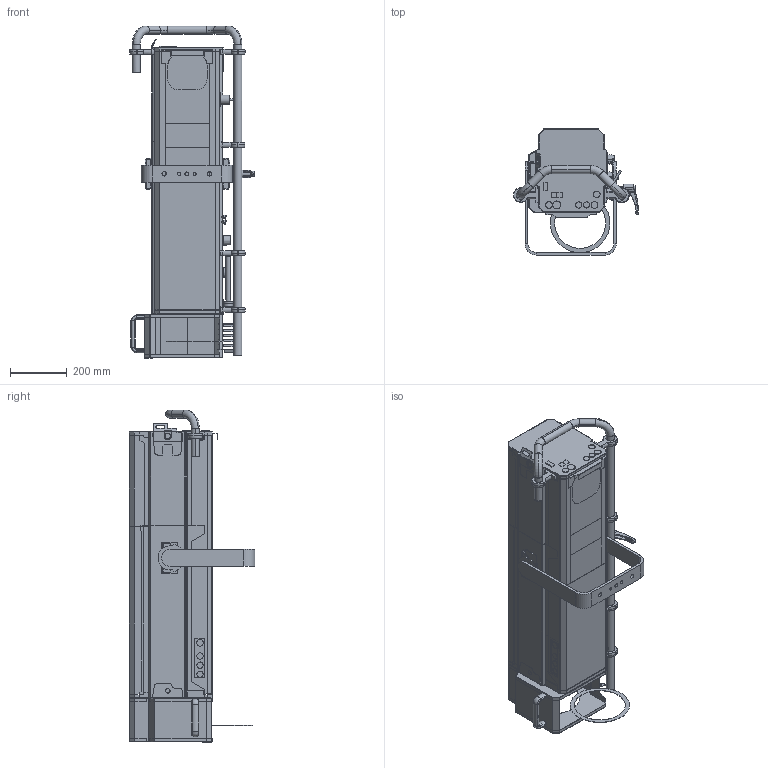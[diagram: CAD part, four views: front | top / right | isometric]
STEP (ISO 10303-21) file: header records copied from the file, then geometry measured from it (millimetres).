
FILE_DESCRIPTION (( 'STEP AP203' ), '1' );
FILE_NAME ('_Export_212590 TRISTAN.STEP', '2024-10-29T10:05:32', ( '' ), ( '' ), 'SwSTEP 2.0', 'SolidWorks 2023', '' );
FILE_SCHEMA (( 'CONFIG_CONTROL_DESIGN' ));
Products named in the file (1): _Export_212590 TRISTAN
Bounding box: 441.98 x 445 x 1173.5 mm (x, y, z)
Volume: 4658695.7 mm3; surface area: 3645542.6 mm2
Topology: 64 solids, 64 shells, 1786 faces, 4061 edges, 2411 vertices
Faces by surface type: plane 1191, cylinder 432, bspline 66, torus 43, sphere 30, cone 24
Entity records: 52354 total; most frequent: CARTESIAN_POINT 12438, DIRECTION 8214, ORIENTED_EDGE 8106, EDGE_CURVE 4053, VECTOR 2930, LINE 2930, AXIS2_PLACEMENT_3D 2642, VERTEX_POINT 2411
